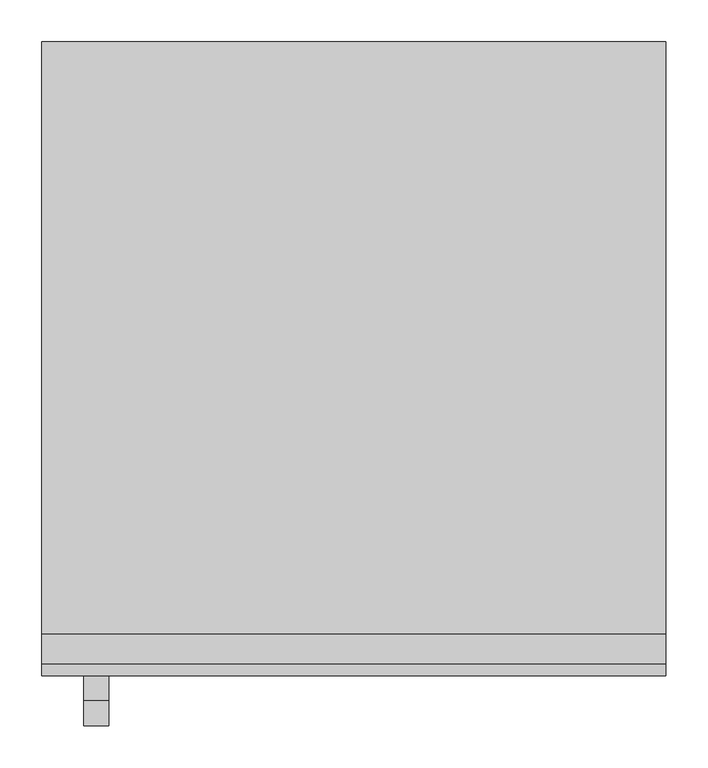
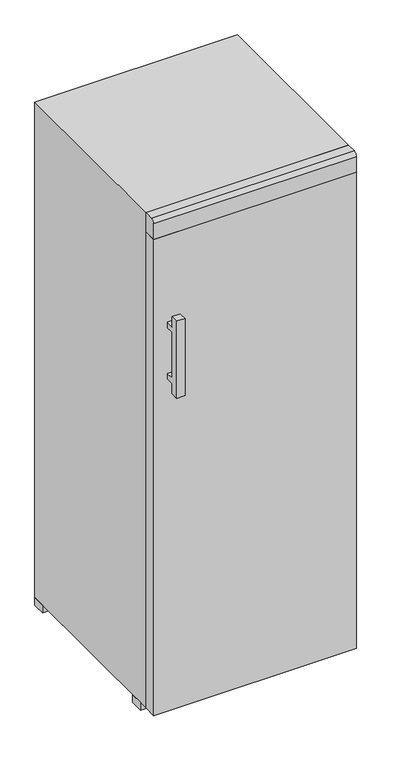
"""IFC4 building model written with IfcOpenShell, lengths in millimetres: proxy geometry, WKt 6451 : WKt 6451."""

from ifc_helpers import new_model, si_unit, point, frame, frame_2d, origin, place, context, project, spatial, polyline, circle_curve, trimmed, segment, composite_curve, outline, extrude, source, transform, mapped, element, save


def specialty_equipment_b5ad8041(model_context):
    return source(origin(), model_context, "Body", "SweptSolid", [
        extrude(outline(composite_curve([segment(polyline([(-738.8345306, 1151.8132517), (-788.8345306, 1151.8132517), (-788.8345306, 1213.26203)]), True, "CONTINUOUS"), segment(trimmed(circle_curve(frame_2d((-774.5349468, 1212.4930039)), 14.3202478), [point((-788.8345306, 1213.26203))], [point((-774.5349468, 1226.8132517))], False, "CARTESIAN"), True, "CONTINUOUS"), segment(polyline([(-774.5349468, 1226.8132517), (-738.8345306, 1226.8132517), (-738.8345306, 1151.8132517)]), True, "CONTINUOUS")], self_intersect=False)), frame((-1000.0, 0.0, 0.0), z_axis=(1.0, 0.0, 0.0), x_axis=(0.0, 1.0, 0.0)), (0.0, 0.0, 1.0), 747.0),
        extrude(outline(polyline([(-253.0, -688.8345306), (-253.0, -738.8345306), (-303.0, -738.8345306), (-303.0, -688.8345306), (-253.0, -688.8345306)])), frame((0.0, 0.0, -733.1867483), z_axis=(0.0, 0.0, 1.0), x_axis=(1.0, 0.0, 0.0)), (0.0, 0.0, 1.0), 30.0),
        extrude(outline(polyline([(-253.0, -29.8345306), (-253.0, -79.8345306), (-303.0, -79.8345306), (-303.0, -29.8345306), (-253.0, -29.8345306)])), frame((0.0, 0.0, -733.1867483), z_axis=(0.0, 0.0, 1.0), x_axis=(1.0, 0.0, 0.0)), (0.0, 0.0, 1.0), 30.0),
        extrude(outline(polyline([(-950.0, -29.8345306), (-950.0, -79.8345306), (-1000.0, -79.8345306), (-1000.0, -29.8345306), (-950.0, -29.8345306)])), frame((0.0, 0.0, -733.1867483), z_axis=(0.0, 0.0, 1.0), x_axis=(1.0, 0.0, 0.0)), (0.0, 0.0, 1.0), 30.0),
        extrude(outline(polyline([(-950.0, -655.0864632), (-950.0, -705.0864632), (-1000.0, -705.0864632), (-1000.0, -655.0864632), (-950.0, -655.0864632)])), frame((0.0, 0.0, -733.1867483), z_axis=(0.0, 0.0, 1.0), x_axis=(1.0, 0.0, 0.0)), (0.0, 0.0, 1.0), 30.0),
        extrude(outline(polyline([(-818.8345306, 811.8132517), (-788.8345306, 811.8132517), (-788.8345306, 791.8132517), (-818.8345306, 791.8132517), (-818.8345306, 611.8132517), (-788.8345306, 611.8132517), (-788.8345306, 591.8132517), (-818.8345306, 591.8132517), (-818.8345306, 551.8132517), (-848.8345306, 551.8132517), (-848.8345306, 851.8132517), (-818.8345306, 851.8132517), (-818.8345306, 811.8132517)])), frame((-950.0, 0.0, 0.0), z_axis=(1.0, 0.0, 0.0), x_axis=(0.0, 1.0, 0.0)), (0.0, 0.0, 1.0), 30.0),
        extrude(outline(polyline([(-253.0, -788.8345306), (-1000.0, -788.8345306), (-1000.0, -738.8345306), (-253.0, -738.8345306), (-253.0, -788.8345306)])), frame((0.0, 0.0, -703.1867483), z_axis=(0.0, 0.0, 1.0), x_axis=(1.0, 0.0, 0.0)), (0.0, 0.0, 1.0), 1855.0),
        extrude(outline(polyline([(-253.0, -738.8345306), (-1000.0, -738.8345306), (-1000.0, -29.8345306), (-253.0, -29.8345306), (-253.0, -738.8345306)])), frame((0.0, 0.0, -703.1867483), z_axis=(0.0, 0.0, 1.0), x_axis=(1.0, 0.0, 0.0)), (0.0, 0.0, 1.0), 1930.0),
    ])


if __name__ == "__main__":
    model = new_model("IFC4")
    model_context = context("Model", 3, world=origin())
    ifc_project = project(units=[si_unit("LENGTHUNIT", "METRE", prefix="MILLI")], contexts=[model_context])
    site = spatial("IfcSite", under=ifc_project)
    building = spatial("IfcBuilding", under=site)
    placement = place(None, origin())
    specialty_equipment_shape = specialty_equipment_b5ad8041(model_context)
    element("IfcBuildingElementProxy", 1, Name="WKt 6451 : WKt 6451", ObjectType="WKt 6451 : WKt 6451", at=placement, inside=building, context=model_context, shape_type="MappedRepresentation", body=[
        mapped(specialty_equipment_shape, transform((0.0, 0.0, 0.0), x_axis=(1.0, 0.0, 0.0), y_axis=(0.0, 1.0, 0.0), z_axis=(0.0, 0.0, 1.0))),
    ])
    save(model, "model.ifc")
